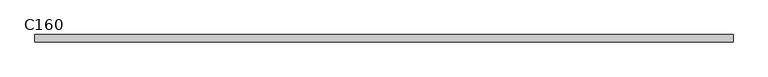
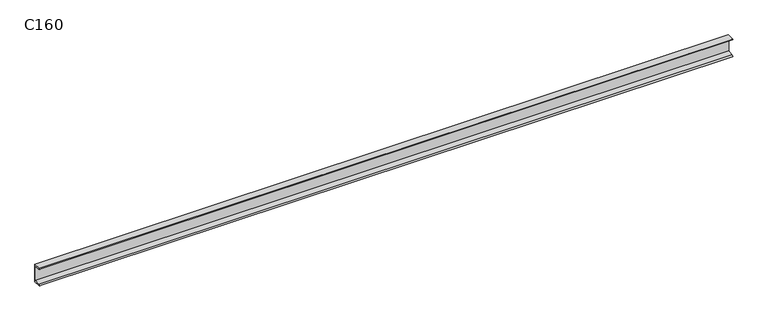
"""IFC4 building model written with IfcOpenShell, lengths in millimetres: beam geometry, RPLN C - Ceowniki normalne : C160."""

from ifc_helpers import new_model, si_unit, point, frame, frame_2d, origin, place, context, project, spatial, polyline, circle_curve, trimmed, segment, composite_curve, outline, extrude, source, transform, mapped, element, save


def c160_c7498115(model_context):
    return source(origin(), model_context, "Body", "SweptSolid", [
        extrude(outline(composite_curve([segment(polyline([(18.4, 80.0), (18.4, -80.0), (-46.6, -80.0)]), True, "CONTINUOUS"), segment(trimmed(circle_curve(frame_2d((-36.1, -80.0)), 10.5), [point((-46.6, -80.0))], [point((-36.1, -69.5))], False, "CARTESIAN"), True, "CONTINUOUS"), segment(polyline([(-36.1, -69.5), (10.9, -62.0559313), (10.9, 62.0559313), (-36.1, 69.5)]), True, "CONTINUOUS"), segment(trimmed(circle_curve(frame_2d((-36.1, 80.0)), 10.5), [point((-36.1, 69.5))], [point((-46.6, 80.0))], False, "CARTESIAN"), True, "CONTINUOUS"), segment(polyline([(-46.6, 80.0), (18.4, 80.0)]), True, "CONTINUOUS")], self_intersect=False)), frame((-3000.0, 0.0, 0.0), z_axis=(1.0, 0.0, 0.0), x_axis=(0.0, 1.0, 0.0)), (0.0, 0.0, 1.0), 6000.0),
    ])


if __name__ == "__main__":
    model = new_model("IFC4")
    model_context = context("Model", 3, world=origin())
    ifc_project = project(units=[si_unit("LENGTHUNIT", "METRE", prefix="MILLI")], contexts=[model_context])
    site = spatial("IfcSite", under=ifc_project)
    building = spatial("IfcBuilding", under=site)
    placement = place(None, origin())
    c160_shape = c160_c7498115(model_context)
    element("IfcBeam", 1, ObjectType="RPLN C - Ceowniki normalne : C160", at=placement, inside=building, context=model_context, shape_type="MappedRepresentation", body=[
        mapped(c160_shape, transform((0.0, 0.0, 0.0), x_axis=(1.0, 0.0, 0.0), y_axis=(0.0, 1.0, 0.0), z_axis=(0.0, 0.0, 1.0))),
    ])
    save(model, "model.ifc")
